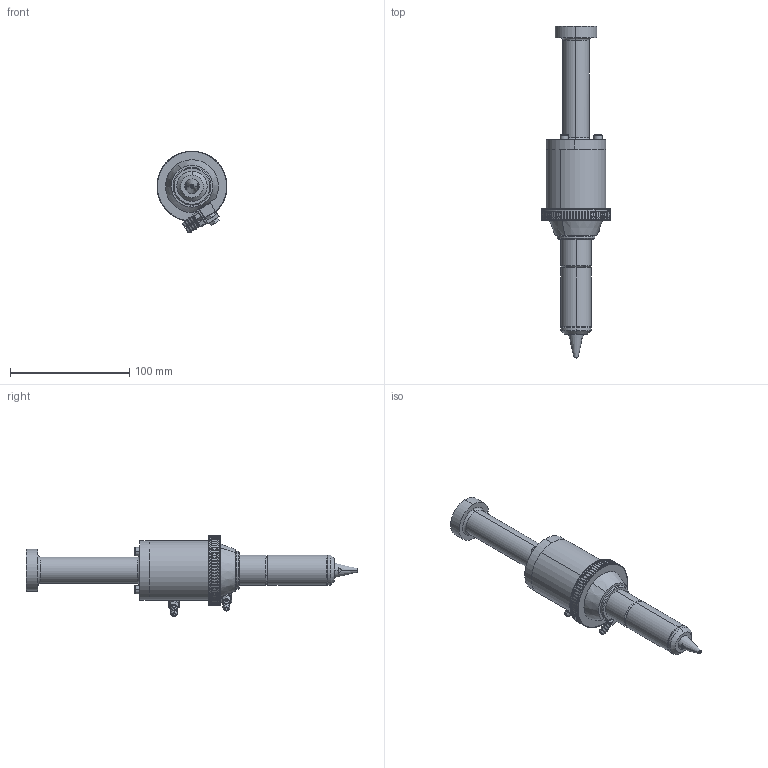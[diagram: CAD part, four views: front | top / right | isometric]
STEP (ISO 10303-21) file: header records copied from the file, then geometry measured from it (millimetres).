
FILE_DESCRIPTION (( 'STEP AP214' ), '1' );
FILE_NAME ('PHF-25-150.STEP', '2016-10-26T18:14:22', ( '' ), ( '' ), 'SwSTEP 2.0', 'SolidWorks 2016', '' );
FILE_SCHEMA (( 'AUTOMOTIVE_DESIGN' ));
Length unit declared in the file: inch
Products named in the file (1): PHF-25-150
Bounding box: 58.72 x 278.58 x 68.34 mm (x, y, z)
Volume: 232699.7 mm3; surface area: 39305.6 mm2
Topology: 1 solids, 2 shells, 1275 faces, 3602 edges, 2325 vertices
Faces by surface type: plane 765, cylinder 352, torus 84, sphere 40, cone 34
Entity records: 40886 total; most frequent: CARTESIAN_POINT 9143, ORIENTED_EDGE 7124, DIRECTION 6295, EDGE_CURVE 3562, VERTEX_POINT 2325, VECTOR 2181, LINE 2181, AXIS2_PLACEMENT_3D 2057
